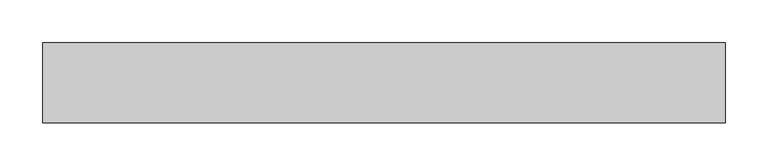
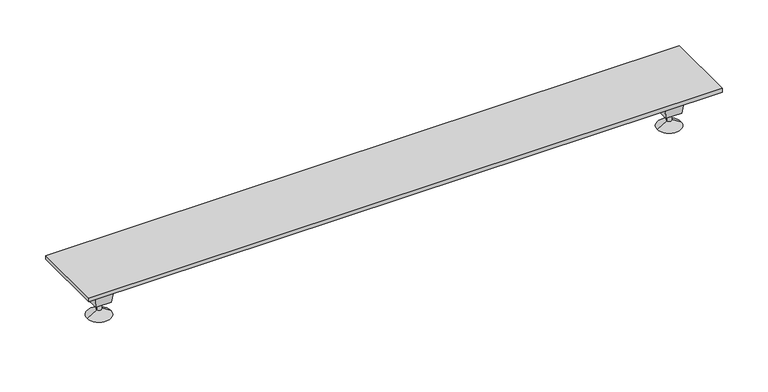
"""IFC4 building model written with IfcOpenShell, lengths in millimetres: sanitary terminal geometry, NLRS_PF_52_UN_Multi in_uitloop_Easydrain : Multi zijuitloop hoog 50mm, zij-ingang 40mm."""

from ifc_helpers import new_model, si_unit, frame, origin, place, context, project, spatial, polyline, circle_curve, outline, extrude, faceted_brep, source, transform, mapped, element, save
from ifc_brep_helpers import plane_surface, cylinder_surface, revolved_surface, advanced_brep


def sanitary_terminal_6d434ef9(model_context):
    return source(origin(), model_context, "Body", "SolidModel", [
        advanced_brep(
        [(513.0, 0.0, -60.0), (507.0, 0.0, -60.0), (510.0, 0.0, -60.0), (513.0, 0.0, -71.5), (507.0, 0.0, -71.5), (525.0, 0.0, -79.0), (495.0, 0.0, -79.0), (510.0, 0.0, -79.0)],
        [
            (0, 1, circle_curve(frame((510.0, 0.0, -60.0), z_axis=(0.0, 0.0, 1.0), x_axis=(-1.0, 0.0, 0.0)), 3.0)),
            (1, 2),
            (2, 0),
            (1, 0, circle_curve(frame((510.0, 0.0, -60.0), z_axis=(0.0, 0.0, 1.0), x_axis=(-1.0, 0.0, 0.0)), 3.0)),
            (3, 4, circle_curve(frame((510.0, 0.0, -71.5), z_axis=(0.0, 0.0, 1.0), x_axis=(-1.0, 0.0, 0.0)), 3.0)),
            (4, 1),
            (0, 3),
            (4, 3, circle_curve(frame((510.0, 0.0, -71.5), z_axis=(0.0, 0.0, 1.0), x_axis=(-1.0, 0.0, 0.0)), 3.0)),
            (5, 6, circle_curve(frame((510.0, 0.0, -79.0), z_axis=(0.0, 0.0, 1.0), x_axis=(-1.0, 0.0, 0.0)), 15.0)),
            (6, 4),
            (3, 5),
            (6, 5, circle_curve(frame((510.0, 0.0, -79.0), z_axis=(0.0, 0.0, 1.0), x_axis=(-1.0, 0.0, 0.0)), 15.0)),
            (7, 6),
            (5, 7),
        ],
        [
            plane_surface(frame((510.0, 0.0, -60.0), z_axis=(0.0, 0.0, 1.0), x_axis=(-1.0, 0.0, 0.0))),
            cylinder_surface(frame((510.0, 0.0, -87.1782032), z_axis=(0.0, 0.0, -1.0), x_axis=(-1.0, 0.0, 0.0)), 3.0),
            revolved_surface(polyline([(507.0, 0.0, -71.5), (495.0, 0.0, -79.0)]), (510.0, 0.0, -87.1782032), (0.0, 0.0, -1.0)),
            plane_surface(frame((510.0, 0.0, -79.0), z_axis=(0.0, 0.0, -1.0), x_axis=(-1.0, 0.0, 0.0))),
        ],
        [
            (0, [[1, 2, 3]]),
            (0, [[4, -3, -2]]),
            (1, [[5, 6, -1, 7]]),
            (1, [[8, -7, -4, -6]]),
            (2, [[9, 10, -5, 11]]),
            (2, [[12, -11, -8, -10]]),
            (3, [[13, -9, 14]]),
            (3, [[-14, -12, -13]]),
        ],
    ),
        faceted_brep([(500.0, 10.0, -60.0), (520.0, 10.0, -60.0), (520.0, -10.0, -60.0), (500.0, -10.0, -60.0), (495.0, 15.0, -20.0), (495.0, -15.0, -20.0), (525.0, -15.0, -20.0), (525.0, 15.0, -20.0)], [[[0, 1, 2, 3]], [[4, 5, 6, 7]], [[5, 4, 0, 3]], [[6, 5, 3, 2]], [[7, 6, 2, 1]], [[4, 7, 1, 0]]]),
        advanced_brep(
        [(-207.0, 0.0, -60.0), (-213.0, 0.0, -60.0), (-210.0, 0.0, -60.0), (-207.0, 0.0, -71.5), (-213.0, 0.0, -71.5), (-195.0, 0.0, -79.0), (-225.0, 0.0, -79.0), (-210.0, 0.0, -79.0)],
        [
            (0, 1, circle_curve(frame((-210.0, 0.0, -60.0), z_axis=(0.0, 0.0, 1.0), x_axis=(-1.0, 0.0, 0.0)), 3.0)),
            (1, 2),
            (2, 0),
            (1, 0, circle_curve(frame((-210.0, 0.0, -60.0), z_axis=(0.0, 0.0, 1.0), x_axis=(-1.0, 0.0, 0.0)), 3.0)),
            (3, 4, circle_curve(frame((-210.0, 0.0, -71.5), z_axis=(0.0, 0.0, 1.0), x_axis=(-1.0, 0.0, 0.0)), 3.0)),
            (4, 1),
            (0, 3),
            (4, 3, circle_curve(frame((-210.0, 0.0, -71.5), z_axis=(0.0, 0.0, 1.0), x_axis=(-1.0, 0.0, 0.0)), 3.0)),
            (5, 6, circle_curve(frame((-210.0, 0.0, -79.0), z_axis=(0.0, 0.0, 1.0), x_axis=(-1.0, 0.0, 0.0)), 15.0)),
            (6, 4),
            (3, 5),
            (6, 5, circle_curve(frame((-210.0, 0.0, -79.0), z_axis=(0.0, 0.0, 1.0), x_axis=(-1.0, 0.0, 0.0)), 15.0)),
            (7, 6),
            (5, 7),
        ],
        [
            plane_surface(frame((-210.0, 0.0, -60.0), z_axis=(0.0, 0.0, 1.0), x_axis=(-1.0, 0.0, 0.0))),
            cylinder_surface(frame((-210.0, 0.0, -87.1782032), z_axis=(0.0, 0.0, -1.0), x_axis=(-1.0, 0.0, 0.0)), 3.0),
            revolved_surface(polyline([(-213.0, 0.0, -71.5), (-225.0, 0.0, -79.0)]), (-210.0, 0.0, -87.1782032), (0.0, 0.0, -1.0)),
            plane_surface(frame((-210.0, 0.0, -79.0), z_axis=(0.0, 0.0, -1.0), x_axis=(-1.0, 0.0, 0.0))),
        ],
        [
            (0, [[1, 2, 3]]),
            (0, [[4, -3, -2]]),
            (1, [[5, 6, -1, 7]]),
            (1, [[8, -7, -4, -6]]),
            (2, [[9, 10, -5, 11]]),
            (2, [[12, -11, -8, -10]]),
            (3, [[13, -9, 14]]),
            (3, [[-14, -12, -13]]),
        ],
    ),
        faceted_brep([(-220.0, 10.0, -60.0), (-200.0, 10.0, -60.0), (-200.0, -10.0, -60.0), (-220.0, -10.0, -60.0), (-225.0, 15.0, -20.0), (-225.0, -15.0, -20.0), (-195.0, -15.0, -20.0), (-195.0, 15.0, -20.0)], [[[0, 1, 2, 3]], [[4, 5, 6, 7]], [[5, 4, 0, 3]], [[6, 5, 3, 2]], [[7, 6, 2, 1]], [[4, 7, 1, 0]]]),
        extrude(outline(polyline([(550.0, -47.0), (-250.0, -47.0), (-250.0, 47.0), (550.0, 47.0), (550.0, -47.0)])), frame((0.0, 0.0, -20.0), z_axis=(0.0, 0.0, 1.0), x_axis=(1.0, 0.0, 0.0)), (0.0, 0.0, 1.0), 5.0),
    ])


if __name__ == "__main__":
    model = new_model("IFC4")
    model_context = context("Model", 3, world=origin())
    ifc_project = project(units=[si_unit("LENGTHUNIT", "METRE", prefix="MILLI")], contexts=[model_context])
    site = spatial("IfcSite", under=ifc_project)
    building = spatial("IfcBuilding", under=site)
    placement = place(None, origin())
    sanitary_terminal_shape = sanitary_terminal_6d434ef9(model_context)
    element("IfcSanitaryTerminal", 1, ObjectType="NLRS_PF_52_UN_Multi in_uitloop_Easydrain : Multi zijuitloop hoog 50mm, zij-ingang 40mm", at=placement, inside=building, context=model_context, shape_type="MappedRepresentation", body=[
        mapped(sanitary_terminal_shape, transform((0.0, 0.0, 0.0), x_axis=(1.0, 0.0, 0.0), y_axis=(0.0, 1.0, 0.0), z_axis=(0.0, 0.0, 1.0))),
    ])
    save(model, "model.ifc")
